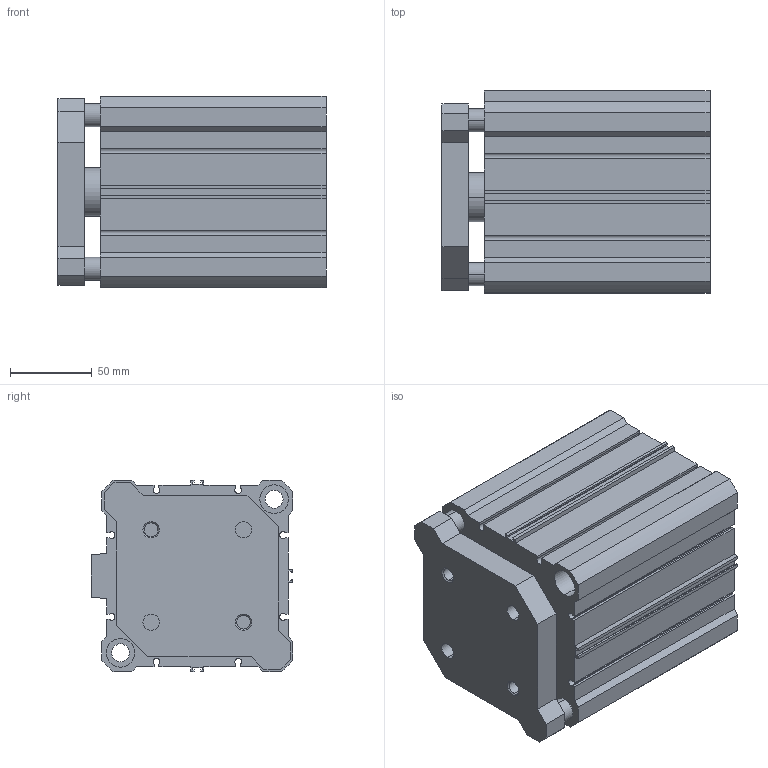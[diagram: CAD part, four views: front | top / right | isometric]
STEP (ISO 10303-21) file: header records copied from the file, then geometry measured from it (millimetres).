
FILE_DESCRIPTION (( 'STEP AP203' ), '1' );
FILE_NAME ('CCMG100-75.STEP', '2020-04-01T18:54:37', ( '' ), ( '' ), 'SwSTEP 2.0', 'SolidWorks 2019', '' );
FILE_SCHEMA (( 'CONFIG_CONTROL_DESIGN' ));
Length unit declared in the file: millimetre
Products named in the file (1): CCMG100-75
Bounding box: 164 x 123.5 x 117 mm (x, y, z)
Volume: 1360644.1 mm3; surface area: 237179.2 mm2
Topology: 2 solids, 2 shells, 194 faces, 518 edges, 338 vertices
Faces by surface type: plane 114, cylinder 64, cone 16
Entity records: 6105 total; most frequent: CARTESIAN_POINT 1047, DIRECTION 1044, ORIENTED_EDGE 1028, EDGE_CURVE 514, VECTOR 374, LINE 374, VERTEX_POINT 338, AXIS2_PLACEMENT_3D 335
